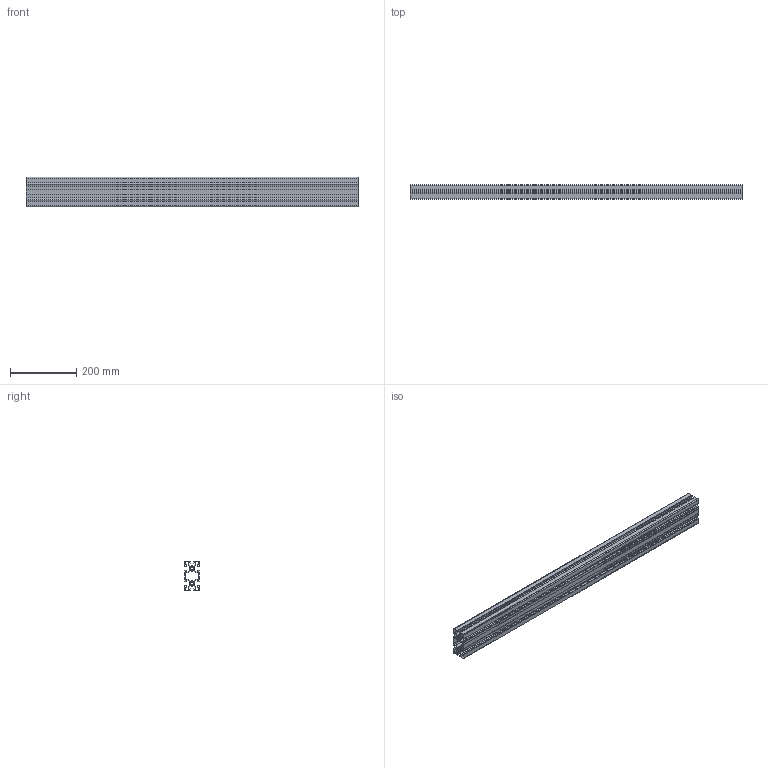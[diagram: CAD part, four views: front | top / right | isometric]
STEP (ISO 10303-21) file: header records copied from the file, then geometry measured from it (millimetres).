
FILE_DESCRIPTION (( 'STEP AP214' ), '1' );
FILE_NAME ('45X90L.STEP', '2019-07-04T07:29:50', ( '' ), ( '' ), 'SwSTEP 2.0', 'SolidWorks 2014', '' );
FILE_SCHEMA (( 'AUTOMOTIVE_DESIGN' ));
Length unit declared in the file: millimetre
Products named in the file (2): 45X90L
Bounding box: 1000 x 45 x 90 mm (x, y, z)
Volume: 947769.3 mm3; surface area: 1030027.7 mm2
Topology: 1 solids, 1 shells, 312 faces, 930 edges, 620 vertices
Faces by surface type: plane 198, cylinder 114
Entity records: 10559 total; most frequent: CARTESIAN_POINT 1864, ORIENTED_EDGE 1860, DIRECTION 1786, EDGE_CURVE 930, LINE 702, VECTOR 702, VERTEX_POINT 620, AXIS2_PLACEMENT_3D 542
